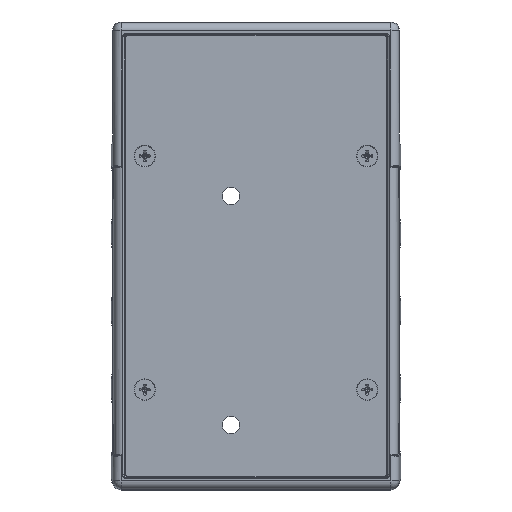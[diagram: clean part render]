
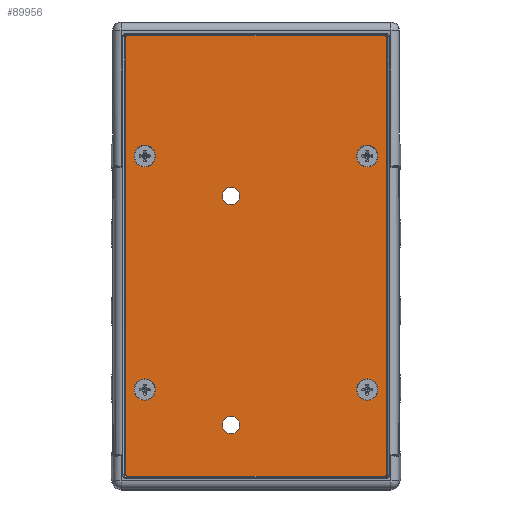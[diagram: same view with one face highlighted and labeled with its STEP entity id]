
A CAD part, front view. The second image highlights one B-rep face of the part: STEP entity #89956.
In plain terms, the highlighted planar face has unit normal (0, -1, 0).
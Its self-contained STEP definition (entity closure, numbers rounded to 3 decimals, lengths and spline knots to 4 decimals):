
#89304=CARTESIAN_POINT('',(-1.539,0.0049,-2.652));
#89305=DIRECTION('',(0.,-1.,0.));
#89306=DIRECTION('',(-1.,0.,0.));
#89307=AXIS2_PLACEMENT_3D('',#89304,#89305,#89306);
#89309=DIRECTION('',(0.,0.,1.));
#89310=VECTOR('',#89309,5.227);
#89311=CARTESIAN_POINT('',(-1.569,0.0049,-2.652));
#89312=LINE('',#89311,#89310);
#89313=DIRECTION('',(1.,0.,0.));
#89314=VECTOR('',#89313,3.078);
#89315=CARTESIAN_POINT('',(-1.539,0.0049,2.605));
#89316=LINE('',#89315,#89314);
#89317=DIRECTION('',(0.,0.,-1.));
#89318=VECTOR('',#89317,5.227);
#89319=CARTESIAN_POINT('',(1.569,0.0049,2.575));
#89320=LINE('',#89319,#89318);
#89321=DIRECTION('',(-1.,0.,0.));
#89322=VECTOR('',#89321,3.078);
#89323=CARTESIAN_POINT('',(1.539,0.0049,-2.682));
#89324=LINE('',#89323,#89322);
#89325=CARTESIAN_POINT('',(-1.335,0.0049,1.16));
#89326=DIRECTION('',(0.,1.,0.));
#89327=DIRECTION('',(-1.,0.,0.));
#89328=AXIS2_PLACEMENT_3D('',#89325,#89326,#89327);
#89330=CARTESIAN_POINT('',(-1.335,0.0049,1.16));
#89331=DIRECTION('',(0.,-1.,0.));
#89332=DIRECTION('',(-1.,0.,0.));
#89333=AXIS2_PLACEMENT_3D('',#89330,#89331,#89332);
#89335=CARTESIAN_POINT('',(-1.335,0.0049,-1.643));
#89336=DIRECTION('',(0.,1.,0.));
#89337=DIRECTION('',(-1.,0.,0.));
#89338=AXIS2_PLACEMENT_3D('',#89335,#89336,#89337);
#89340=CARTESIAN_POINT('',(-1.335,0.0049,-1.643));
#89341=DIRECTION('',(0.,-1.,0.));
#89342=DIRECTION('',(-1.,0.,0.));
#89343=AXIS2_PLACEMENT_3D('',#89340,#89341,#89342);
#89345=CARTESIAN_POINT('',(1.335,0.0049,1.16));
#89346=DIRECTION('',(0.,1.,0.));
#89347=DIRECTION('',(-1.,0.,0.));
#89348=AXIS2_PLACEMENT_3D('',#89345,#89346,#89347);
#89350=CARTESIAN_POINT('',(1.335,0.0049,1.16));
#89351=DIRECTION('',(0.,-1.,0.));
#89352=DIRECTION('',(-1.,0.,0.));
#89353=AXIS2_PLACEMENT_3D('',#89350,#89351,#89352);
#89355=CARTESIAN_POINT('',(1.335,0.0049,-1.643));
#89356=DIRECTION('',(0.,1.,0.));
#89357=DIRECTION('',(-1.,0.,0.));
#89358=AXIS2_PLACEMENT_3D('',#89355,#89356,#89357);
#89360=CARTESIAN_POINT('',(1.335,0.0049,-1.643));
#89361=DIRECTION('',(0.,-1.,0.));
#89362=DIRECTION('',(-1.,0.,0.));
#89363=AXIS2_PLACEMENT_3D('',#89360,#89361,#89362);
#89365=CARTESIAN_POINT('',(-0.301,0.0049,-2.068));
#89366=DIRECTION('',(0.,1.,0.));
#89367=DIRECTION('',(0.,0.,1.));
#89368=AXIS2_PLACEMENT_3D('',#89365,#89366,#89367);
#89370=CARTESIAN_POINT('',(-0.301,0.0049,-2.068));
#89371=DIRECTION('',(0.,1.,0.));
#89372=DIRECTION('',(0.,0.,-1.));
#89373=AXIS2_PLACEMENT_3D('',#89370,#89371,#89372);
#89375=CARTESIAN_POINT('',(-0.301,0.0049,0.682));
#89376=DIRECTION('',(0.,1.,0.));
#89377=DIRECTION('',(0.,0.,1.));
#89378=AXIS2_PLACEMENT_3D('',#89375,#89376,#89377);
#89380=CARTESIAN_POINT('',(-0.301,0.0049,0.682));
#89381=DIRECTION('',(0.,1.,0.));
#89382=DIRECTION('',(0.,0.,-1.));
#89383=AXIS2_PLACEMENT_3D('',#89380,#89381,#89382);
#89398=CARTESIAN_POINT('',(-1.539,0.0049,2.575));
#89399=DIRECTION('',(0.,-1.,0.));
#89400=DIRECTION('',(0.,0.,1.));
#89401=AXIS2_PLACEMENT_3D('',#89398,#89399,#89400);
#89416=CARTESIAN_POINT('',(1.539,0.0049,2.575));
#89417=DIRECTION('',(0.,-1.,0.));
#89418=DIRECTION('',(1.,0.,0.));
#89419=AXIS2_PLACEMENT_3D('',#89416,#89417,#89418);
#89434=CARTESIAN_POINT('',(1.539,0.0049,-2.652));
#89435=DIRECTION('',(0.,-1.,0.));
#89436=DIRECTION('',(0.,0.,-1.));
#89437=AXIS2_PLACEMENT_3D('',#89434,#89435,#89436);
#89667=CARTESIAN_POINT('',(-0.301,0.0049,-1.963));
#89668=CARTESIAN_POINT('',(-0.301,0.0049,-2.173));
#89669=VERTEX_POINT('',#89667);
#89670=VERTEX_POINT('',#89668);
#89671=CARTESIAN_POINT('',(-0.301,0.0049,0.787));
#89672=CARTESIAN_POINT('',(-0.301,0.0049,0.577));
#89673=VERTEX_POINT('',#89671);
#89674=VERTEX_POINT('',#89672);
#89684=CARTESIAN_POINT('',(-1.539,0.0049,-2.682));
#89686=VERTEX_POINT('',#89684);
#89689=CARTESIAN_POINT('',(-1.569,0.0049,-2.652));
#89690=VERTEX_POINT('',#89689);
#89692=CARTESIAN_POINT('',(1.569,0.0049,-2.652));
#89694=VERTEX_POINT('',#89692);
#89697=CARTESIAN_POINT('',(1.539,0.0049,-2.682));
#89698=VERTEX_POINT('',#89697);
#89700=CARTESIAN_POINT('',(-1.569,0.0049,2.575));
#89702=VERTEX_POINT('',#89700);
#89705=CARTESIAN_POINT('',(-1.539,0.0049,2.605));
#89706=VERTEX_POINT('',#89705);
#89708=CARTESIAN_POINT('',(1.539,0.0049,2.605));
#89710=VERTEX_POINT('',#89708);
#89713=CARTESIAN_POINT('',(1.569,0.0049,2.575));
#89714=VERTEX_POINT('',#89713);
#89727=CARTESIAN_POINT('',(1.206,0.0049,-1.643));
#89728=CARTESIAN_POINT('',(1.464,0.0049,-1.643));
#89729=VERTEX_POINT('',#89727);
#89730=VERTEX_POINT('',#89728);
#89747=CARTESIAN_POINT('',(1.206,0.0049,1.16));
#89748=CARTESIAN_POINT('',(1.464,0.0049,1.16));
#89749=VERTEX_POINT('',#89747);
#89750=VERTEX_POINT('',#89748);
#89767=CARTESIAN_POINT('',(-1.464,0.0049,-1.643));
#89768=CARTESIAN_POINT('',(-1.206,0.0049,-1.643));
#89769=VERTEX_POINT('',#89767);
#89770=VERTEX_POINT('',#89768);
#89787=CARTESIAN_POINT('',(-1.464,0.0049,1.16));
#89788=CARTESIAN_POINT('',(-1.206,0.0049,1.16));
#89789=VERTEX_POINT('',#89787);
#89790=VERTEX_POINT('',#89788);
#89899=CARTESIAN_POINT('',(0.,0.0049,2.));
#89900=DIRECTION('',(0.,1.,0.));
#89901=DIRECTION('',(0.,0.,-1.));
#89902=AXIS2_PLACEMENT_3D('',#89899,#89900,#89901);
#89903=PLANE('',#89902);
#89904=ORIENTED_EDGE('',*,*,#89880,.F.);
#89906=ORIENTED_EDGE('',*,*,#89905,.T.);
#89908=ORIENTED_EDGE('',*,*,#89907,.F.);
#89910=ORIENTED_EDGE('',*,*,#89909,.T.);
#89912=ORIENTED_EDGE('',*,*,#89911,.F.);
#89914=ORIENTED_EDGE('',*,*,#89913,.T.);
#89916=ORIENTED_EDGE('',*,*,#89915,.F.);
#89917=ORIENTED_EDGE('',*,*,#89891,.T.);
#89918=EDGE_LOOP('',(#89904,#89906,#89908,#89910,#89912,#89914,#89916,#89917));
#89919=FACE_OUTER_BOUND('',#89918,.F.);
#89921=ORIENTED_EDGE('',*,*,#89920,.F.);
#89923=ORIENTED_EDGE('',*,*,#89922,.T.);
#89924=EDGE_LOOP('',(#89921,#89923));
#89925=FACE_BOUND('',#89924,.F.);
#89927=ORIENTED_EDGE('',*,*,#89926,.F.);
#89929=ORIENTED_EDGE('',*,*,#89928,.T.);
#89930=EDGE_LOOP('',(#89927,#89929));
#89931=FACE_BOUND('',#89930,.F.);
#89933=ORIENTED_EDGE('',*,*,#89932,.F.);
#89935=ORIENTED_EDGE('',*,*,#89934,.T.);
#89936=EDGE_LOOP('',(#89933,#89935));
#89937=FACE_BOUND('',#89936,.F.);
#89939=ORIENTED_EDGE('',*,*,#89938,.F.);
#89941=ORIENTED_EDGE('',*,*,#89940,.T.);
#89942=EDGE_LOOP('',(#89939,#89941));
#89943=FACE_BOUND('',#89942,.F.);
#89945=ORIENTED_EDGE('',*,*,#89944,.F.);
#89947=ORIENTED_EDGE('',*,*,#89946,.F.);
#89948=EDGE_LOOP('',(#89945,#89947));
#89949=FACE_BOUND('',#89948,.F.);
#89951=ORIENTED_EDGE('',*,*,#89950,.F.);
#89953=ORIENTED_EDGE('',*,*,#89952,.F.);
#89954=EDGE_LOOP('',(#89951,#89953));
#89955=FACE_BOUND('',#89954,.F.);
#89956=ADVANCED_FACE('',(#89919,#89925,#89931,#89937,#89943,#89949,#89955),
#89903,.F.);
#89308=CIRCLE('',#89307,0.03);
#89329=CIRCLE('',#89328,0.129);
#89334=CIRCLE('',#89333,0.129);
#89339=CIRCLE('',#89338,0.129);
#89344=CIRCLE('',#89343,0.129);
#89349=CIRCLE('',#89348,0.129);
#89354=CIRCLE('',#89353,0.129);
#89359=CIRCLE('',#89358,0.129);
#89364=CIRCLE('',#89363,0.129);
#89369=CIRCLE('',#89368,0.105);
#89374=CIRCLE('',#89373,0.105);
#89379=CIRCLE('',#89378,0.105);
#89384=CIRCLE('',#89383,0.105);
#89402=CIRCLE('',#89401,0.03);
#89420=CIRCLE('',#89419,0.03);
#89438=CIRCLE('',#89437,0.03);
#89880=EDGE_CURVE('',#89690,#89686,#89308,.T.);
#89891=EDGE_CURVE('',#89698,#89686,#89324,.T.);
#89905=EDGE_CURVE('',#89690,#89702,#89312,.T.);
#89907=EDGE_CURVE('',#89706,#89702,#89402,.T.);
#89909=EDGE_CURVE('',#89706,#89710,#89316,.T.);
#89911=EDGE_CURVE('',#89714,#89710,#89420,.T.);
#89913=EDGE_CURVE('',#89714,#89694,#89320,.T.);
#89915=EDGE_CURVE('',#89698,#89694,#89438,.T.);
#89920=EDGE_CURVE('',#89789,#89790,#89329,.T.);
#89922=EDGE_CURVE('',#89789,#89790,#89334,.T.);
#89926=EDGE_CURVE('',#89769,#89770,#89339,.T.);
#89928=EDGE_CURVE('',#89769,#89770,#89344,.T.);
#89932=EDGE_CURVE('',#89749,#89750,#89349,.T.);
#89934=EDGE_CURVE('',#89749,#89750,#89354,.T.);
#89938=EDGE_CURVE('',#89729,#89730,#89359,.T.);
#89940=EDGE_CURVE('',#89729,#89730,#89364,.T.);
#89944=EDGE_CURVE('',#89669,#89670,#89369,.T.);
#89946=EDGE_CURVE('',#89670,#89669,#89374,.T.);
#89950=EDGE_CURVE('',#89673,#89674,#89379,.T.);
#89952=EDGE_CURVE('',#89674,#89673,#89384,.T.);
